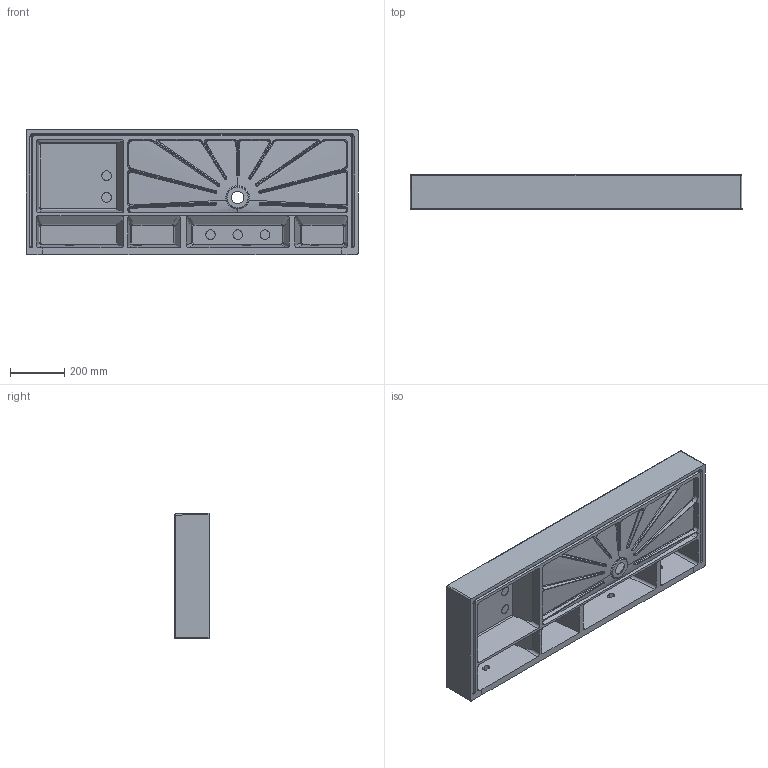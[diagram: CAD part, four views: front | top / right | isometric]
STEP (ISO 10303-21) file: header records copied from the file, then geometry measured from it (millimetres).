
FILE_DESCRIPTION (( 'STEP AP203' ), '1' );
FILE_NAME ('ELLP12246LQ0.STEP', '2019-02-01T10:17:52', ( '' ), ( '' ), 'SwSTEP 2.0', 'SolidWorks 2019', '' );
FILE_SCHEMA (( 'CONFIG_CONTROL_DESIGN' ));
Length unit declared in the file: millimetre
Products named in the file (1): ELLP12246LQ0
Bounding box: 1220.18 x 125 x 460.09 mm (x, y, z)
Volume: 20220535 mm3; surface area: 2168537.1 mm2
Topology: 1 solids, 1 shells, 387 faces, 984 edges, 602 vertices
Faces by surface type: cylinder 140, bspline 135, plane 89, torus 12, sphere 9, cone 2
Entity records: 27828 total; most frequent: CARTESIAN_POINT 19796, ORIENTED_EDGE 1956, DIRECTION 1318, EDGE_CURVE 978, VERTEX_POINT 602, AXIS2_PLACEMENT_3D 493, EDGE_LOOP 406, ADVANCED_FACE 387
